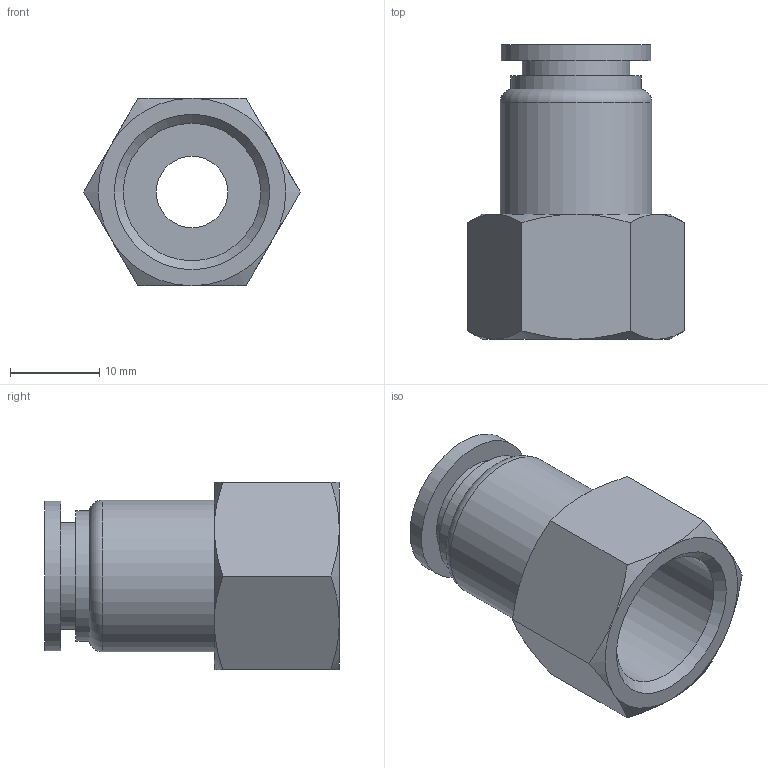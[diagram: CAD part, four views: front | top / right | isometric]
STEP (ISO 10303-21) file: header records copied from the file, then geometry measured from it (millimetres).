
FILE_DESCRIPTION(/* description */ (''),/* implementation_level */ '2;1');
FILE_NAME(/* name */ 'S:\_Tecnico\ArchivioUT\_Disegni3D ingombri\DISEGNI 3D per ingombri\RP\RP 52\RP523810.stp',/* time_stamp */ '2019-07-29T15:48:36+02:00',/* author */ ('ufficiotecnico3'),/* organization */ (''),/* preprocessor_version */ 'ST-DEVELOPER v18',/* originating_system */ 'Autodesk Inventor 2020',/* authorisation */ '');
FILE_SCHEMA (('AUTOMOTIVE_DESIGN { 1 0 10303 214 3 1 1 }'));
Length unit declared in the file: millimetre
Products named in the file (1): RP523810
Bounding box: 24.25 x 33 x 21 mm (x, y, z)
Volume: 5442.6 mm3; surface area: 4006.2 mm2
Topology: 1 solids, 1 shells, 35 faces, 80 edges, 52 vertices
Faces by surface type: cone 14, plane 13, cylinder 7, torus 1
Full cylindrical faces by diameter (mm): 8 x1, 10 x1, 12 x1, 14.6 x1, 15.395 x1, 16.8 x1, 17 x1
Entity records: 1024 total; most frequent: CARTESIAN_POINT 216, DIRECTION 169, ORIENTED_EDGE 160, EDGE_CURVE 80, AXIS2_PLACEMENT_3D 77, VERTEX_POINT 52, EDGE_LOOP 42, CIRCLE 41
